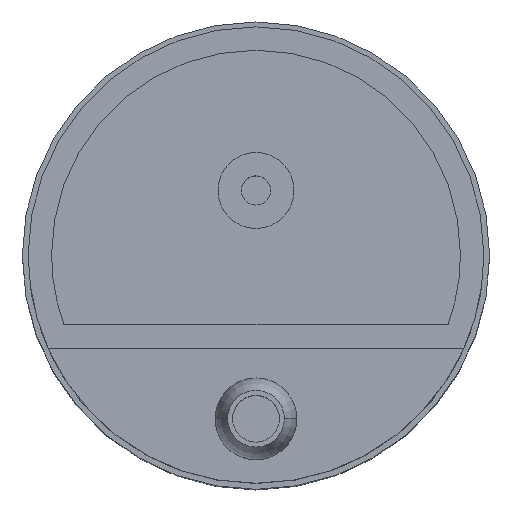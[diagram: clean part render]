
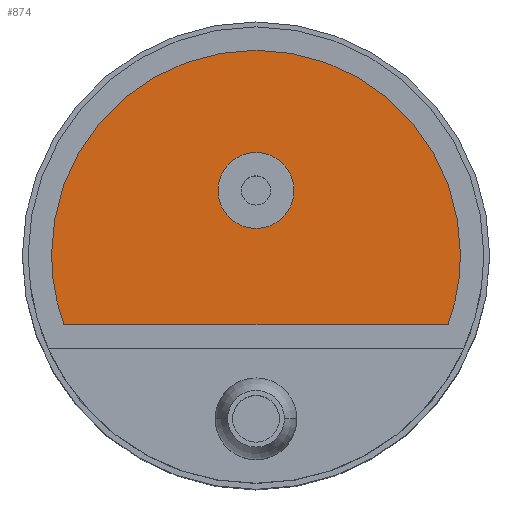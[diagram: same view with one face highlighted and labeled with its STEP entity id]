
A CAD part, top view. The second image highlights one B-rep face of the part: STEP entity #874.
In plain terms, the highlighted planar face has unit normal (0, 0, 1) as drawn and (0, 0, -1) by its records, which use the part's own axes.
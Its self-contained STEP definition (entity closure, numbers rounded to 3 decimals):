
#129 = VECTOR ( 'NONE', #292, 1000. ) ;
#170 = DIRECTION ( 'NONE',  ( 0., 0., -1. ) ) ;
#193 = CARTESIAN_POINT ( 'NONE',  ( 16.439, -6., 0.5 ) ) ;
#261 = EDGE_CURVE ( 'NONE', #1171, #968, #888, .T. ) ;
#265 = EDGE_CURVE ( 'NONE', #512, #2214, #2465, .T. ) ;
#292 = DIRECTION ( 'NONE',  ( -1., 0., 0. ) ) ;
#368 = DIRECTION ( 'NONE',  ( 0., 0., -1. ) ) ;
#407 = AXIS2_PLACEMENT_3D ( 'NONE', #2530, #368, #2696 ) ;
#414 = ORIENTED_EDGE ( 'NONE', *, *, #1114, .T. ) ;
#476 = AXIS2_PLACEMENT_3D ( 'NONE', #1941, #2839, #2870 ) ;
#512 = VERTEX_POINT ( 'NONE', #2327 ) ;
#608 = ORIENTED_EDGE ( 'NONE', *, *, #2813, .T. ) ;
#653 = EDGE_CURVE ( 'NONE', #2015, #2172, #1905, .T. ) ;
#712 = CIRCLE ( 'NONE', #476, 17.5 ) ;
#874 = ADVANCED_FACE ( 'NONE', ( #1702, #2163 ), #2350, .T. ) ;
#888 = CIRCLE ( 'NONE', #407, 17.5 ) ;
#938 = DIRECTION ( 'NONE',  ( -1., 0., 0. ) ) ;
#968 = VERTEX_POINT ( 'NONE', #2378 ) ;
#972 = ORIENTED_EDGE ( 'NONE', *, *, #2736, .F. ) ;
#1017 = DIRECTION ( 'NONE',  ( 0., 0., -1. ) ) ;
#1114 = EDGE_CURVE ( 'NONE', #2172, #1171, #2570, .T. ) ;
#1171 = VERTEX_POINT ( 'NONE', #1568 ) ;
#1310 = DIRECTION ( 'NONE',  ( -1., 0., 0. ) ) ;
#1355 = EDGE_LOOP ( 'NONE', ( #414, #1900, #608, #2592 ) ) ;
#1406 = CARTESIAN_POINT ( 'NONE',  ( 0., 5.5, 0.5 ) ) ;
#1442 = CARTESIAN_POINT ( 'NONE',  ( 0., 0., 0.5 ) ) ;
#1473 = AXIS2_PLACEMENT_3D ( 'NONE', #1569, #170, #2684 ) ;
#1568 = CARTESIAN_POINT ( 'NONE',  ( -17.5, 0., 0.5 ) ) ;
#1569 = CARTESIAN_POINT ( 'NONE',  ( 0., 5.5, 0.5 ) ) ;
#1650 = EDGE_LOOP ( 'NONE', ( #2621, #972 ) ) ;
#1673 = CARTESIAN_POINT ( 'NONE',  ( -16.439, -6., 0.5 ) ) ;
#1702 = FACE_BOUND ( 'NONE', #1650, .T. ) ;
#1815 = AXIS2_PLACEMENT_3D ( 'NONE', #1442, #1017, #2117 ) ;
#1900 = ORIENTED_EDGE ( 'NONE', *, *, #261, .T. ) ;
#1905 = LINE ( 'NONE', #2623, #129 ) ;
#1941 = CARTESIAN_POINT ( 'NONE',  ( 0., 0., 0.5 ) ) ;
#1959 = AXIS2_PLACEMENT_3D ( 'NONE', #2880, #1993, #1310 ) ;
#1993 = DIRECTION ( 'NONE',  ( 0., 0., -1. ) ) ;
#2015 = VERTEX_POINT ( 'NONE', #193 ) ;
#2082 = DIRECTION ( 'NONE',  ( 0., 0., -1. ) ) ;
#2117 = DIRECTION ( 'NONE',  ( -1., 0., 0. ) ) ;
#2163 = FACE_OUTER_BOUND ( 'NONE', #1355, .T. ) ;
#2172 = VERTEX_POINT ( 'NONE', #1673 ) ;
#2214 = VERTEX_POINT ( 'NONE', #2797 ) ;
#2327 = CARTESIAN_POINT ( 'NONE',  ( -3.25, 5.5, 0.5 ) ) ;
#2350 = PLANE ( 'NONE',  #1815 ) ;
#2378 = CARTESIAN_POINT ( 'NONE',  ( 17.5, 0., 0.5 ) ) ;
#2465 = CIRCLE ( 'NONE', #1473, 3.25 ) ;
#2524 = AXIS2_PLACEMENT_3D ( 'NONE', #1406, #2082, #938 ) ;
#2530 = CARTESIAN_POINT ( 'NONE',  ( 0., 0., 0.5 ) ) ;
#2534 = CIRCLE ( 'NONE', #2524, 3.25 ) ;
#2570 = CIRCLE ( 'NONE', #1959, 17.5 ) ;
#2592 = ORIENTED_EDGE ( 'NONE', *, *, #653, .T. ) ;
#2621 = ORIENTED_EDGE ( 'NONE', *, *, #265, .F. ) ;
#2623 = CARTESIAN_POINT ( 'NONE',  ( 16.439, -6., 0.5 ) ) ;
#2684 = DIRECTION ( 'NONE',  ( -1., 0., 0. ) ) ;
#2696 = DIRECTION ( 'NONE',  ( -1., 0., 0. ) ) ;
#2736 = EDGE_CURVE ( 'NONE', #2214, #512, #2534, .T. ) ;
#2797 = CARTESIAN_POINT ( 'NONE',  ( 3.25, 5.5, 0.5 ) ) ;
#2813 = EDGE_CURVE ( 'NONE', #968, #2015, #712, .T. ) ;
#2839 = DIRECTION ( 'NONE',  ( 0., 0., -1. ) ) ;
#2870 = DIRECTION ( 'NONE',  ( -1., 0., 0. ) ) ;
#2880 = CARTESIAN_POINT ( 'NONE',  ( 0., 0., 0.5 ) ) ;
